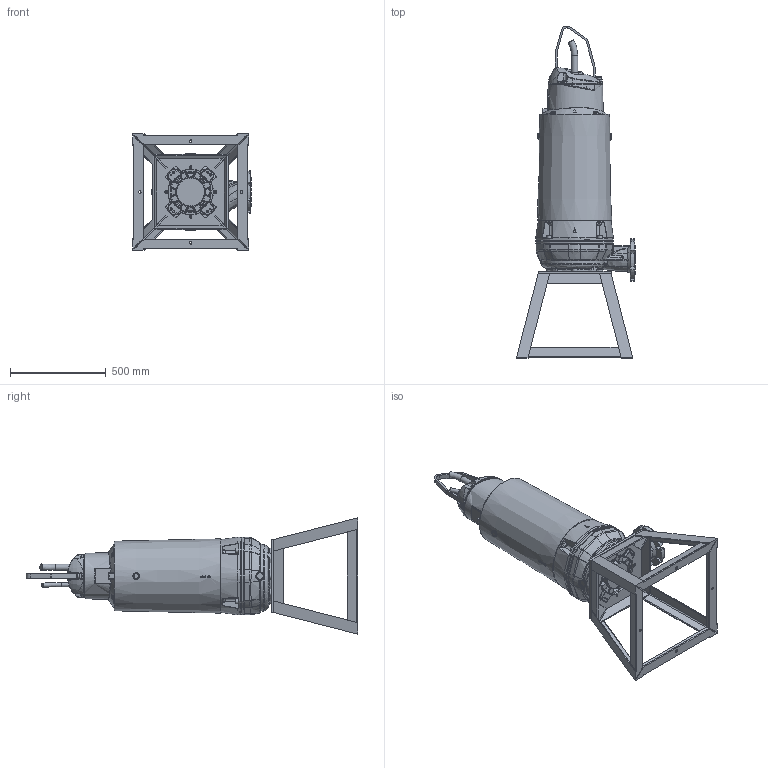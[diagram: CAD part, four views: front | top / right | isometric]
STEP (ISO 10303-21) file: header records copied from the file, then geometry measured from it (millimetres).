
FILE_DESCRIPTION (( 'STEP AP203' ), '1' );
FILE_NAME ('XFP107G-CB2_PE3B_Dry_Vertical-.step', '2023-05-02T13:51:27', ( '' ), ( '' ), 'SwSTEP 2.0', 'SolidWorks 2017', '' );
FILE_SCHEMA (( 'CONFIG_CONTROL_DESIGN' ));
Products named in the file (2): XFP107G-CB2_PE3B_Dry_Vertical-
Bounding box: 619.73 x 1729.2 x 605.45 mm (x, y, z)
Volume: 110726772.7 mm3; surface area: 2970086.1 mm2
Topology: 15 solids, 34 shells, 3326 faces, 7938 edges, 4539 vertices
Faces by surface type: bspline 1419, cylinder 849, plane 752, torus 162, cone 132, sphere 12
Full cylindrical faces by diameter (mm): 6.8 x3, 8 x9, 8.5 x12, 9 x5, 10 x7, 10.3 x4, 11 x8, 12 x4, 12.5 x4, 13 x18, 14 x4, 15 x3, 16 x9, 17 x2, 18 x14, 22 x1, 24 x6, 26 x5, 32 x1, 34 x1, 38 x1, 40 x1, 48 x1, 50 x1, 153 x1, 235 x1
Entity records: 175100 total; most frequent: CARTESIAN_POINT 112215, ORIENTED_EDGE 14746, DIRECTION 10285, EDGE_CURVE 7373, VERTEX_POINT 4425, AXIS2_PLACEMENT_3D 3983, EDGE_LOOP 3712, FACE_OUTER_BOUND 3505
